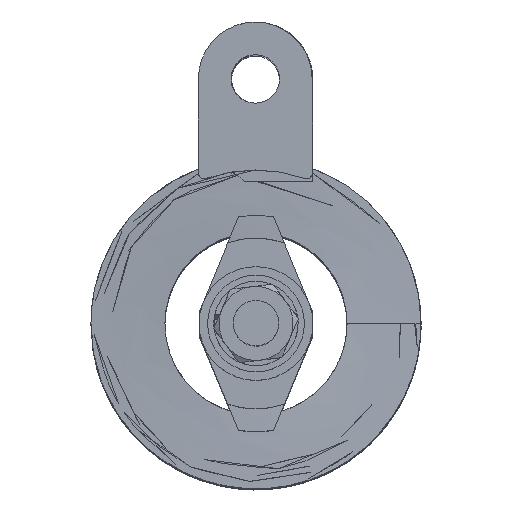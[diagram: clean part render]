
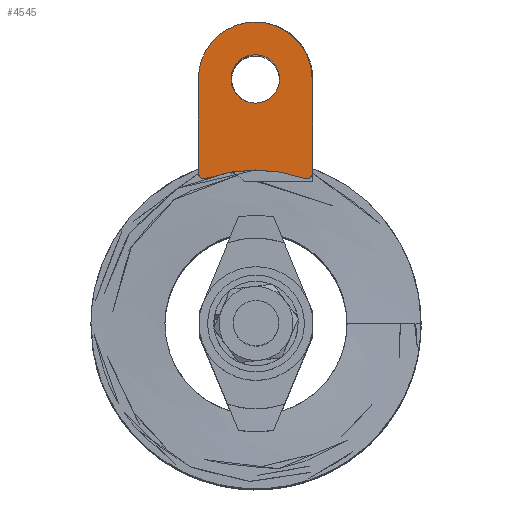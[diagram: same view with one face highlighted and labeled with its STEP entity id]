
A CAD part, top view. The second image highlights one B-rep face of the part: STEP entity #4545.
In plain terms, the highlighted planar face has unit normal (-0.036, 0, 0.999) as drawn and (0.036, -0.999, 0) by its records, which use the part's own axes.
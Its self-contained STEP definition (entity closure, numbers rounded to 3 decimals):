
#122=FACE_BOUND('',#1628,.T.);
#765=LINE('',#12010,#1016);
#770=LINE('',#13115,#1021);
#1016=VECTOR('',#5825,10.);
#1021=VECTOR('',#5832,10.);
#1375=FACE_OUTER_BOUND('',#1627,.T.);
#1627=EDGE_LOOP('',(#4138,#4139,#4140,#4141,#4142,#4143));
#1628=EDGE_LOOP('',(#4144));
#1694=CIRCLE('',#5020,1.);
#1697=CIRCLE('',#5025,26.);
#1699=CIRCLE('',#5029,1.);
#1700=CIRCLE('',#5031,10.);
#1701=CIRCLE('',#5033,4.25);
#2126=VERTEX_POINT('',#11726);
#2128=VERTEX_POINT('',#11770);
#2132=VERTEX_POINT('',#11804);
#2136=VERTEX_POINT('',#11837);
#2140=VERTEX_POINT('',#11870);
#2141=VERTEX_POINT('',#11879);
#2142=VERTEX_POINT('',#11883);
#2784=EDGE_CURVE('',#2126,#2128,#1694,.T.);
#2790=EDGE_CURVE('',#2128,#2132,#1697,.T.);
#2795=EDGE_CURVE('',#2132,#2136,#1699,.T.);
#2800=EDGE_CURVE('',#2141,#2140,#1700,.T.);
#2802=EDGE_CURVE('',#2142,#2142,#1701,.T.);
#2808=EDGE_CURVE('',#2136,#2141,#765,.T.);
#2816=EDGE_CURVE('',#2126,#2140,#770,.T.);
#4138=ORIENTED_EDGE('',*,*,#2795,.T.);
#4139=ORIENTED_EDGE('',*,*,#2808,.T.);
#4140=ORIENTED_EDGE('',*,*,#2800,.T.);
#4141=ORIENTED_EDGE('',*,*,#2816,.F.);
#4142=ORIENTED_EDGE('',*,*,#2784,.T.);
#4143=ORIENTED_EDGE('',*,*,#2790,.T.);
#4144=ORIENTED_EDGE('',*,*,#2802,.T.);
#4213=PLANE('',#5035);
#4545=ADVANCED_FACE('',(#1375,#122),#4213,.T.);
#5020=AXIS2_PLACEMENT_3D('',#11772,#5790,#5791);
#5025=AXIS2_PLACEMENT_3D('',#11806,#5801,#5802);
#5029=AXIS2_PLACEMENT_3D('',#11838,#5809,#5810);
#5031=AXIS2_PLACEMENT_3D('',#11880,#5814,#5815);
#5033=AXIS2_PLACEMENT_3D('',#11884,#5819,#5820);
#5035=AXIS2_PLACEMENT_3D('',#13114,#5830,#5831);
#5790=DIRECTION('center_axis',(0.036,-0.999,0.));
#5791=DIRECTION('ref_axis',(0.999,0.036,0.));
#5801=DIRECTION('center_axis',(-0.036,0.999,0.));
#5802=DIRECTION('ref_axis',(0.333,0.012,0.943));
#5809=DIRECTION('center_axis',(0.036,-0.999,0.));
#5810=DIRECTION('ref_axis',(0.333,0.012,0.943));
#5814=DIRECTION('center_axis',(0.036,-0.999,0.));
#5815=DIRECTION('ref_axis',(-0.999,-0.036,0.));
#5819=DIRECTION('center_axis',(-0.036,0.999,0.));
#5820=DIRECTION('ref_axis',(-0.999,-0.036,0.));
#5825=DIRECTION('',(0.,0.,-1.));
#5830=DIRECTION('center_axis',(0.036,-0.999,0.));
#5831=DIRECTION('ref_axis',(-0.999,-0.036,0.));
#5832=DIRECTION('',(0.,0.,-1.));
#11726=CARTESIAN_POINT('',(10.132,-2.008,-26.456));
#11770=CARTESIAN_POINT('',(8.8,-2.056,-25.513));
#11772=CARTESIAN_POINT('Origin',(9.133,-2.044,-26.456));
#11804=CARTESIAN_POINT('',(-8.522,-2.687,-25.513));
#11806=CARTESIAN_POINT('Origin',(0.139,-2.372,-1.));
#11837=CARTESIAN_POINT('',(-9.855,-2.736,-26.456));
#11838=CARTESIAN_POINT('Origin',(-8.855,-2.699,-26.456));
#11870=CARTESIAN_POINT('',(10.132,-2.008,-43.));
#11879=CARTESIAN_POINT('',(-9.855,-2.736,-43.));
#11880=CARTESIAN_POINT('Origin',(0.139,-2.372,-43.));
#11883=CARTESIAN_POINT('',(4.386,-2.217,-43.));
#11884=CARTESIAN_POINT('Origin',(0.139,-2.372,-43.));
#12010=CARTESIAN_POINT('',(-9.855,-2.736,-25.));
#13114=CARTESIAN_POINT('Origin',(10.132,-2.008,-25.));
#13115=CARTESIAN_POINT('',(10.132,-2.008,-25.));
